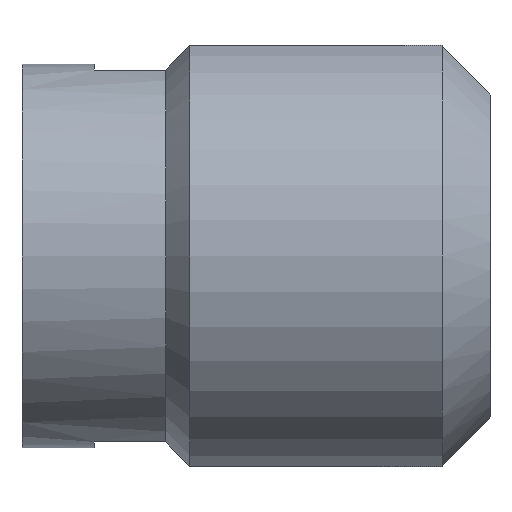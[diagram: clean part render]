
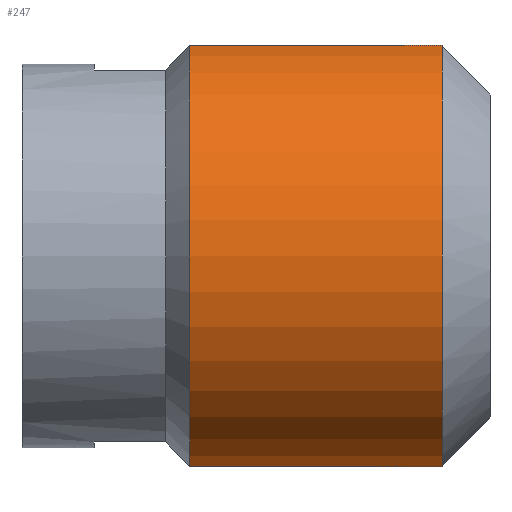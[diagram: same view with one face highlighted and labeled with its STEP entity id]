
A CAD part, front view. The second image highlights one B-rep face of the part: STEP entity #247.
In plain terms, the highlighted cylindrical face has radius 1.8 mm (diameter 3.6 mm), a partial arc.
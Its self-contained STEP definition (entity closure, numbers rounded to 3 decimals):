
#60 = DIRECTION ( 'NONE',  ( 1., 0., 0. ) ) ;
#68 = AXIS2_PLACEMENT_3D ( 'NONE', #371, #502, #627 ) ;
#70 = CARTESIAN_POINT ( 'NONE',  ( 11.788, -0.4, 1.755 ) ) ;
#111 = CIRCLE ( 'NONE', #68, 1.8 ) ;
#135 = EDGE_CURVE ( 'NONE', #762, #188, #111, .T. ) ;
#143 = ORIENTED_EDGE ( 'NONE', *, *, #195, .F. ) ;
#147 = ORIENTED_EDGE ( 'NONE', *, *, #772, .T. ) ;
#186 = CARTESIAN_POINT ( 'NONE',  ( -0.4, -0.4, -1.755 ) ) ;
#188 = VERTEX_POINT ( 'NONE', #269 ) ;
#191 = CARTESIAN_POINT ( 'NONE',  ( 11.788, 0., 0. ) ) ;
#195 = EDGE_CURVE ( 'NONE', #666, #188, #383, .T. ) ;
#200 = CYLINDRICAL_SURFACE ( 'NONE', #558, 1.8 ) ;
#222 = DIRECTION ( 'NONE',  ( -1., 0., 0. ) ) ;
#247 = ADVANCED_FACE ( 'NONE', ( #709 ), #200, .T. ) ;
#258 = EDGE_LOOP ( 'NONE', ( #143, #147, #600, #701 ) ) ;
#269 = CARTESIAN_POINT ( 'NONE',  ( -2.5, -0.4, -1.755 ) ) ;
#284 = DIRECTION ( 'NONE',  ( 0., 0., -1. ) ) ;
#371 = CARTESIAN_POINT ( 'NONE',  ( -2.5, 0., 0. ) ) ;
#378 = LINE ( 'NONE', #70, #776 ) ;
#383 = LINE ( 'NONE', #769, #832 ) ;
#418 = VERTEX_POINT ( 'NONE', #609 ) ;
#450 = DIRECTION ( 'NONE',  ( -1., 0., 0. ) ) ;
#459 = DIRECTION ( 'NONE',  ( 0., 0., -1. ) ) ;
#502 = DIRECTION ( 'NONE',  ( 1., 0., 0. ) ) ;
#558 = AXIS2_PLACEMENT_3D ( 'NONE', #191, #60, #459 ) ;
#599 = AXIS2_PLACEMENT_3D ( 'NONE', #671, #222, #284 ) ;
#600 = ORIENTED_EDGE ( 'NONE', *, *, #704, .F. ) ;
#609 = CARTESIAN_POINT ( 'NONE',  ( -0.4, -0.4, 1.755 ) ) ;
#613 = CIRCLE ( 'NONE', #599, 1.8 ) ;
#627 = DIRECTION ( 'NONE',  ( 0., 0., -1. ) ) ;
#655 = CARTESIAN_POINT ( 'NONE',  ( -2.5, -0.4, 1.755 ) ) ;
#666 = VERTEX_POINT ( 'NONE', #186 ) ;
#671 = CARTESIAN_POINT ( 'NONE',  ( -0.4, 0., 0. ) ) ;
#701 = ORIENTED_EDGE ( 'NONE', *, *, #135, .T. ) ;
#704 = EDGE_CURVE ( 'NONE', #762, #418, #378, .T. ) ;
#709 = FACE_OUTER_BOUND ( 'NONE', #258, .T. ) ;
#762 = VERTEX_POINT ( 'NONE', #655 ) ;
#768 = DIRECTION ( 'NONE',  ( 1., 0., 0. ) ) ;
#769 = CARTESIAN_POINT ( 'NONE',  ( 11.788, -0.4, -1.755 ) ) ;
#772 = EDGE_CURVE ( 'NONE', #666, #418, #613, .T. ) ;
#776 = VECTOR ( 'NONE', #768, 1000. ) ;
#832 = VECTOR ( 'NONE', #450, 1000. ) ;
